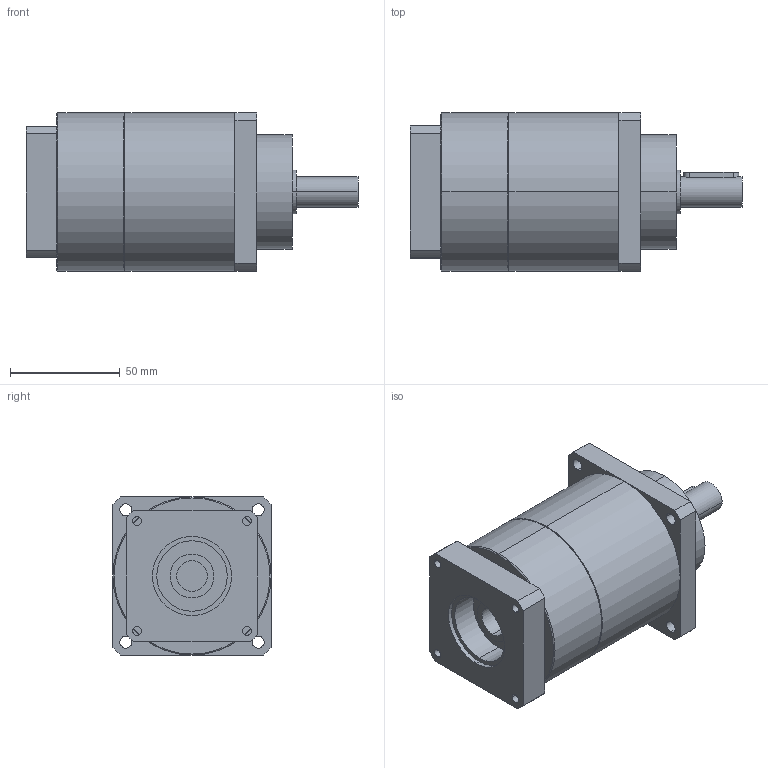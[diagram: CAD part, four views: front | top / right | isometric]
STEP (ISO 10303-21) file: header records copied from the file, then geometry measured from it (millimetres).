
FILE_DESCRIPTION(('CoCreate Modeling STEP Export'),'2;1');
FILE_NAME('GPT75_ig-9-12-16-20-25-28-35-40-50-70-100_14_B5T_14_P35.stp','2014-08-27T13:38:20',(''),(''),'CoCreate Modeling STEP processor for AP214 (Solid Model)','CoCreate Modeling 16.00C 25-Feb-2009 (C) Parametric Technology GmbH','');
FILE_SCHEMA(('AUTOMOTIVE_DESIGN { 1 0 10303 214 1 1 1 1 }'));
Length unit declared in the file: millimetre
Products named in the file (2): GPT75_ig-9-12-16-20-25-28-35-40-50-70-100_14_B5T_14_P35
Assembly tree (1 placements, depth 2):
  GPT75_ig-9-12-16-20-25-28-35-40-50-70-100_14_B5T_14_P35
    GPT75_ig-9-12-16-20-25-28-35-40-50-70-100_14_B5T_14_P35
Bounding box: 151 x 72 x 72 mm (x, y, z)
Volume: 453174.1 mm3; surface area: 43650.3 mm2
Topology: 1 solids, 1 shells, 88 faces, 226 edges, 145 vertices
Faces by surface type: cylinder 46, plane 38, cone 4
Entity records: 2676 total; most frequent: CARTESIAN_POINT 744, ORIENTED_EDGE 452, DIRECTION 334, EDGE_CURVE 226, VERTEX_POINT 145, AXIS2_PLACEMENT_3D 123, EDGE_LOOP 109, VECTOR 88
